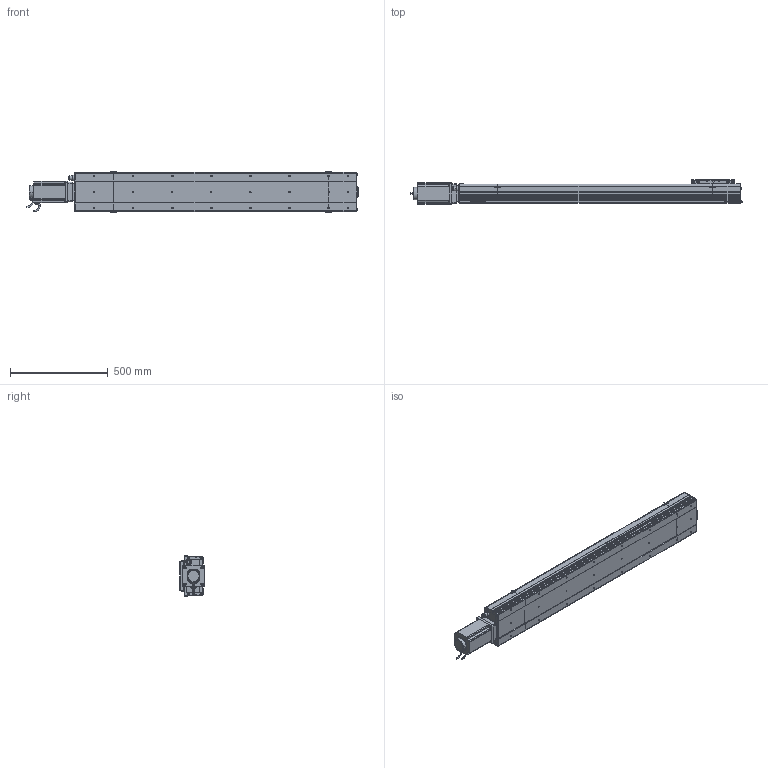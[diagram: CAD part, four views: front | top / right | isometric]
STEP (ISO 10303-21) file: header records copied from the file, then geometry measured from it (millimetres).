
FILE_DESCRIPTION (( 'STEP AP214' ), '1' );
FILE_NAME ('D20 CSH MD S1100.STEP', '2010-06-30T08:17:04', ( 'Conseil Régional Haute-Normandie' ), ( 'Conseil Régional Haute-Normandie' ), 'SwSTEP 2.0', 'SolidWorks 2010', '' );
FILE_SCHEMA (( 'AUTOMOTIVE_DESIGN' ));
Length unit declared in the file: millimetre
Products named in the file (28): Corp Head D20_Default; Plaque De Serrage Head D20_Default; Plaque de Bout Head D20_Default; Couvercle Head_Default; Glissiere_Default; Chariot D20_Default; vis M5 L15_Default; Support Chariot D20_Default; Conecteur2_Default; codeur 110BLDC170A-630x; corps 110BLDC170A-630x; clavette; Conecteur_Default; Moteur motionking 110BLDC170A-640x; vis M8 L15_Default; avant 110BLDC170A-630x; Plaque racord D20_Default; D20 CSH MD S1100; Couvercle_Default; Corp Tail D20+100_Default; Tail D20+100_Default; Corp D20 S1100_Default; Plaque De Serrage D20_Default; Plaque de Bout Tail D20_Default; Head D20 MD_Default; Couvercle S1100_Default; Corp S1100_Default
Assembly tree (53 placements, depth 4):
  D20 CSH MD S1100
    Corp D20 S1100_Default
      Couvercle S1100_Default
      Corp S1100_Default
    Head D20 MD_Default
      vis M8 L15_Default  x4
      vis M5 L15_Default  x10
      Moteur motionking 110BLDC170A-640x
        avant 110BLDC170A-630x
        Conecteur_Default
        corps 110BLDC170A-630x
        clavette
        Conecteur2_Default
        codeur 110BLDC170A-630x
      Couvercle Head_Default
      Plaque de Bout Head D20_Default
      Plaque De Serrage Head D20_Default
      Corp Head D20_Default
      Plaque racord D20_Default
    Chariot D20_Default
      Glissiere_Default
      vis M5 L15_Default  x8
      Chariot D20_Default
      Support Chariot D20_Default
    Tail D20+100_Default
      vis M5 L15_Default  x6
      Corp Tail D20+100_Default
      Plaque De Serrage D20_Default
      Plaque de Bout Tail D20_Default
      Couvercle_Default
Bounding box: 1699 x 125.5 x 206 mm (x, y, z)
Volume: 12126779.8 mm3; surface area: 2155082.8 mm2
Topology: 90 solids, 90 shells, 3424 faces, 8627 edges, 5637 vertices
Faces by surface type: plane 1947, bspline 758, cylinder 581, torus 79, cone 59
Entity records: 153267 total; most frequent: CARTESIAN_POINT 79409, ORIENTED_EDGE 14650, DIRECTION 10955, EDGE_CURVE 7325, VERTEX_POINT 4857, LINE 4805, VECTOR 4805, EDGE_LOOP 3108
